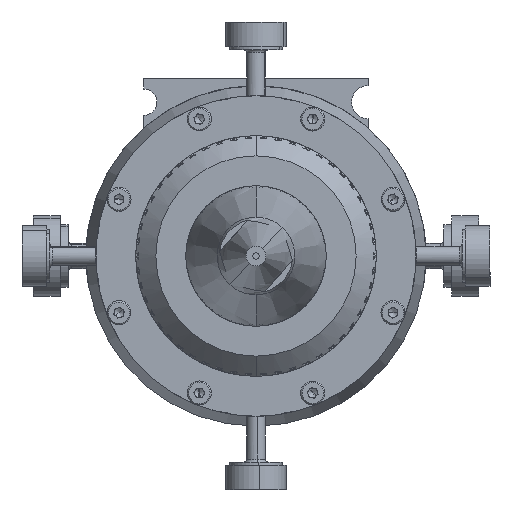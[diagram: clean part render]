
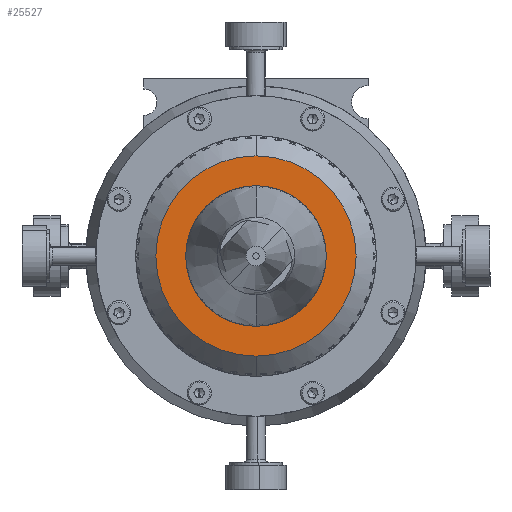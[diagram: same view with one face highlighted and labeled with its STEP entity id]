
A CAD part, front view. The second image highlights one B-rep face of the part: STEP entity #25527.
In plain terms, the highlighted planar face has unit normal (0, -1, 0).
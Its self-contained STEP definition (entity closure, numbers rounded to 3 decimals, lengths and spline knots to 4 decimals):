
#365 = EDGE_LOOP ( 'NONE', ( #124813, #3631 ) ) ;
#3455 = CARTESIAN_POINT ( 'NONE',  ( 0.4375, -0.6524, 0. ) ) ;
#3631 = ORIENTED_EDGE ( 'NONE', *, *, #92602, .F. ) ;
#5081 = CIRCLE ( 'NONE', #5327, 0.625 ) ;
#5327 = AXIS2_PLACEMENT_3D ( 'NONE', #77049, #56449, #68281 ) ;
#6541 = DIRECTION ( 'NONE',  ( 0., 0., -1. ) ) ;
#7410 = CARTESIAN_POINT ( 'NONE',  ( 0., -0.6524, 0. ) ) ;
#12689 = AXIS2_PLACEMENT_3D ( 'NONE', #88345, #66866, #76977 ) ;
#13005 = AXIS2_PLACEMENT_3D ( 'NONE', #93101, #124197, #64607 ) ;
#14852 = CARTESIAN_POINT ( 'NONE',  ( 0., -0.6524, 0.625 ) ) ;
#17425 = DIRECTION ( 'NONE',  ( 0., -1., 0. ) ) ;
#20848 = EDGE_CURVE ( 'NONE', #78499, #104083, #5081, .T. ) ;
#21788 = VERTEX_POINT ( 'NONE', #3455 ) ;
#25527 = ADVANCED_FACE ( 'NONE', ( #43851, #67221 ), #34490, .T. ) ;
#34490 = PLANE ( 'NONE',  #52937 ) ;
#43851 = FACE_BOUND ( 'NONE', #365, .T. ) ;
#49602 = EDGE_CURVE ( 'NONE', #104083, #78499, #69667, .T. ) ;
#52937 = AXIS2_PLACEMENT_3D ( 'NONE', #116246, #107443, #6541 ) ;
#55285 = AXIS2_PLACEMENT_3D ( 'NONE', #7410, #17425, #98238 ) ;
#56449 = DIRECTION ( 'NONE',  ( 0., -1., 0. ) ) ;
#64607 = DIRECTION ( 'NONE',  ( 0., 0., -1. ) ) ;
#66866 = DIRECTION ( 'NONE',  ( 0., -1., 0. ) ) ;
#67221 = FACE_OUTER_BOUND ( 'NONE', #81957, .T. ) ;
#68281 = DIRECTION ( 'NONE',  ( 0., 0., -1. ) ) ;
#69667 = CIRCLE ( 'NONE', #13005, 0.625 ) ;
#73416 = CIRCLE ( 'NONE', #55285, 0.4375 ) ;
#76977 = DIRECTION ( 'NONE',  ( 0., 0., -1. ) ) ;
#77049 = CARTESIAN_POINT ( 'NONE',  ( 0., -0.6524, 0. ) ) ;
#78499 = VERTEX_POINT ( 'NONE', #14852 ) ;
#81957 = EDGE_LOOP ( 'NONE', ( #114815, #114337 ) ) ;
#82002 = VERTEX_POINT ( 'NONE', #110753 ) ;
#88345 = CARTESIAN_POINT ( 'NONE',  ( 0., -0.6524, 0. ) ) ;
#89081 = EDGE_CURVE ( 'NONE', #82002, #21788, #103904, .T. ) ;
#92602 = EDGE_CURVE ( 'NONE', #21788, #82002, #73416, .T. ) ;
#92941 = CARTESIAN_POINT ( 'NONE',  ( 0., -0.6524, -0.625 ) ) ;
#93101 = CARTESIAN_POINT ( 'NONE',  ( 0., -0.6524, 0. ) ) ;
#98238 = DIRECTION ( 'NONE',  ( 0., 0., -1. ) ) ;
#103904 = CIRCLE ( 'NONE', #12689, 0.4375 ) ;
#104083 = VERTEX_POINT ( 'NONE', #92941 ) ;
#107443 = DIRECTION ( 'NONE',  ( 0., -1., 0. ) ) ;
#110753 = CARTESIAN_POINT ( 'NONE',  ( -0.4375, -0.6524, 0. ) ) ;
#114337 = ORIENTED_EDGE ( 'NONE', *, *, #49602, .T. ) ;
#114815 = ORIENTED_EDGE ( 'NONE', *, *, #20848, .T. ) ;
#116246 = CARTESIAN_POINT ( 'NONE',  ( 0.5, -0.6524, 0. ) ) ;
#124197 = DIRECTION ( 'NONE',  ( 0., -1., 0. ) ) ;
#124813 = ORIENTED_EDGE ( 'NONE', *, *, #89081, .F. ) ;
